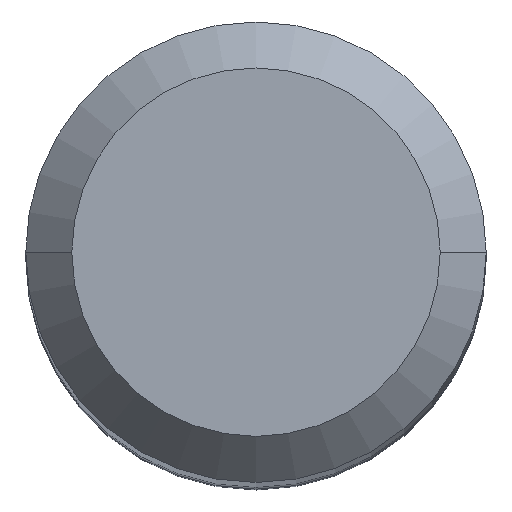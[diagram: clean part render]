
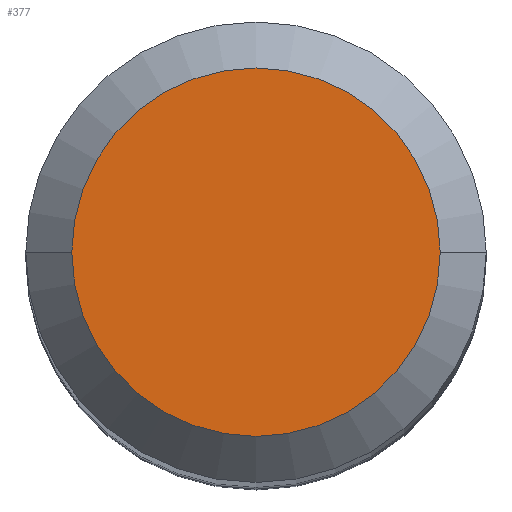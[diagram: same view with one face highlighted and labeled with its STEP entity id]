
A CAD part, top view. The second image highlights one B-rep face of the part: STEP entity #377.
In plain terms, the highlighted planar face has unit normal (0, 0, 1).
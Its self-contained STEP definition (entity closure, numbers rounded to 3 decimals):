
#5 = EDGE_CURVE ( 'NONE', #262, #247, #283, .T. ) ;
#13 = CARTESIAN_POINT ( 'NONE',  ( 0., 2.4, 0. ) ) ;
#79 = DIRECTION ( 'NONE',  ( -1., 0., 0. ) ) ;
#143 = CARTESIAN_POINT ( 'NONE',  ( -2.4, 0., 0. ) ) ;
#199 = DIRECTION ( 'NONE',  ( 0., 0., 1. ) ) ;
#201 = DIRECTION ( 'NONE',  ( -1., 0., 0. ) ) ;
#225 = CIRCLE ( 'NONE', #580, 2.4 ) ;
#240 = ORIENTED_EDGE ( 'NONE', *, *, #5, .F. ) ;
#246 = FACE_OUTER_BOUND ( 'NONE', #367, .T. ) ;
#247 = VERTEX_POINT ( 'NONE', #373 ) ;
#262 = VERTEX_POINT ( 'NONE', #143 ) ;
#266 = DIRECTION ( 'NONE',  ( 0., 0., -1. ) ) ;
#283 = CIRCLE ( 'NONE', #324, 2.4 ) ;
#312 = CARTESIAN_POINT ( 'NONE',  ( 0., 0., 0. ) ) ;
#324 = AXIS2_PLACEMENT_3D ( 'NONE', #460, #499, #79 ) ;
#360 = AXIS2_PLACEMENT_3D ( 'NONE', #13, #199, #487 ) ;
#367 = EDGE_LOOP ( 'NONE', ( #240, #411 ) ) ;
#373 = CARTESIAN_POINT ( 'NONE',  ( 2.4, 0., 0. ) ) ;
#377 = ADVANCED_FACE ( 'NONE', ( #246 ), #445, .T. ) ;
#411 = ORIENTED_EDGE ( 'NONE', *, *, #528, .F. ) ;
#445 = PLANE ( 'NONE',  #360 ) ;
#460 = CARTESIAN_POINT ( 'NONE',  ( 0., 0., 0. ) ) ;
#487 = DIRECTION ( 'NONE',  ( 1., 0., 0. ) ) ;
#499 = DIRECTION ( 'NONE',  ( 0., 0., -1. ) ) ;
#528 = EDGE_CURVE ( 'NONE', #247, #262, #225, .T. ) ;
#580 = AXIS2_PLACEMENT_3D ( 'NONE', #312, #266, #201 ) ;
